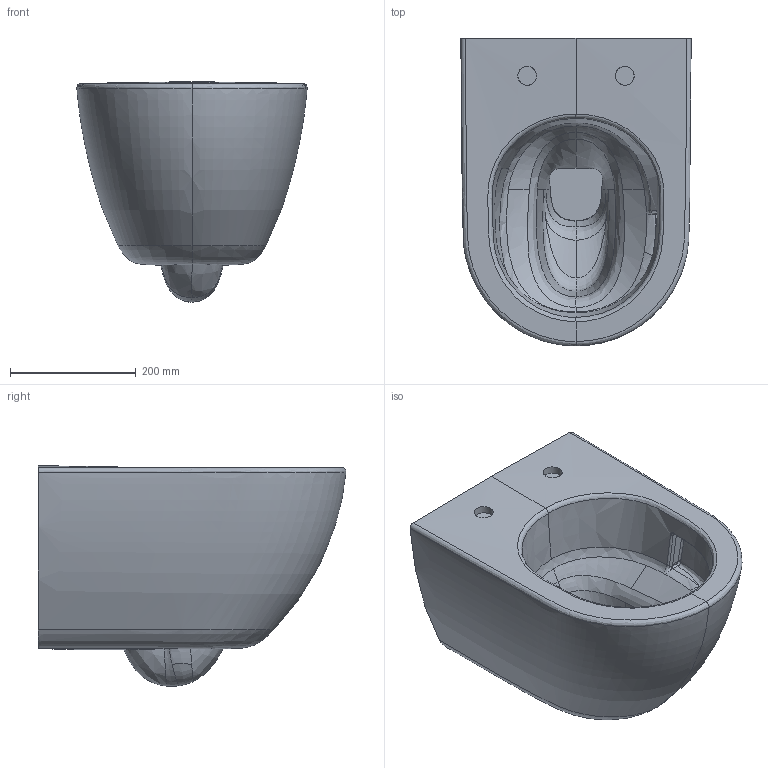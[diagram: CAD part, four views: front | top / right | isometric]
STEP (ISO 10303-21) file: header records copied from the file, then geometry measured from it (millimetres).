
FILE_DESCRIPTION(/* description */ (''),/* implementation_level */ '2;1');
FILE_NAME(/* name */ 'WC_WH_PRO_X_SILENT_CPT_BIM_01.stp',/* time_stamp */ '2025-06-05T09:23:39+02:00',/* author */ (''),/* organization */ (''),/* preprocessor_version */ 'ST-DEVELOPER v16.7',/* originating_system */ 'SIEMENS PLM Software NX 1946',/* authorisation */ '');
FILE_SCHEMA (('AUTOMOTIVE_DESIGN { 1 0 10303 214 3 1 1 1 }'));
Products named in the file (1): elaa0700BDB8ddq3
Bounding box: 365.98 x 489.21 x 350.59 mm (x, y, z)
Volume: 25017756.4 mm3; surface area: 826014.7 mm2
Topology: 1 solids, 1 shells, 92 faces, 254 edges, 166 vertices
Faces by surface type: bspline 68, plane 11, cylinder 10, extrusion 2, sphere 1
Full cylindrical faces by diameter (mm): 30 x2, 54.786 x1, 102 x1
Entity records: 33484 total; most frequent: CARTESIAN_POINT 31777, ORIENTED_EDGE 476, EDGE_CURVE 238, B_SPLINE_CURVE_WITH_KNOTS 194, VERTEX_POINT 160, DIRECTION 111, EDGE_LOOP 104, ADVANCED_FACE 92
